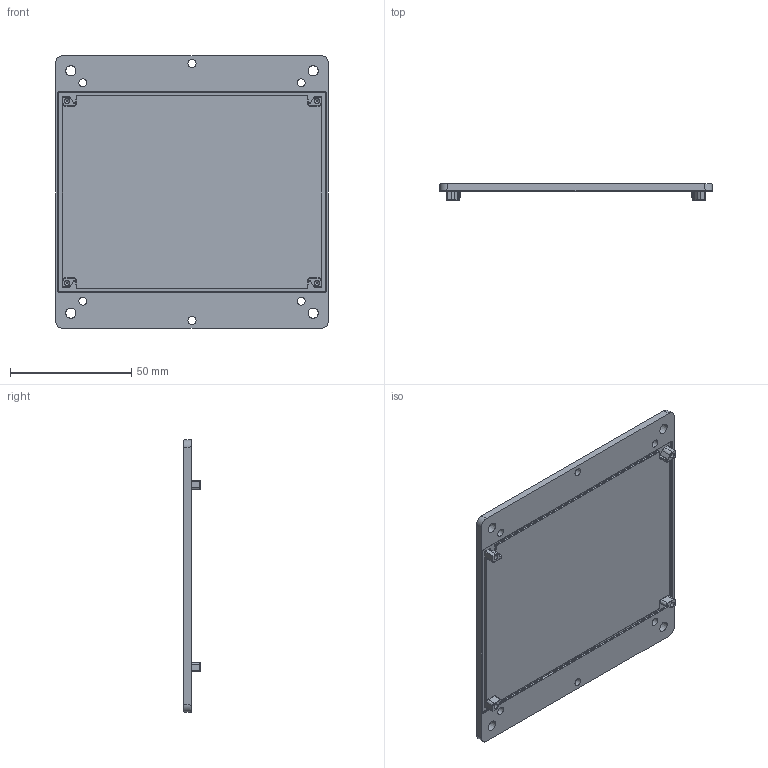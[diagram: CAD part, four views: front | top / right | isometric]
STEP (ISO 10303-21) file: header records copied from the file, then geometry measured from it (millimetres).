
FILE_DESCRIPTION (( 'STEP AP214' ), '1' );
FILE_NAME ('372D010350 SBC-IOT-IMX8 Heatplate .STEP', '2024-08-08T12:34:59', ( '' ), ( '' ), 'SwSTEP 2.0', 'SolidWorks 2015', '' );
FILE_SCHEMA (( 'AUTOMOTIVE_DESIGN' ));
Length unit declared in the file: millimetre
Products named in the file (1): 372D010350 SBC-IOT-IMX8 Heatplate 
Bounding box: 112.5 x 6.7 x 112.5 mm (x, y, z)
Volume: 37184.4 mm3; surface area: 27559.2 mm2
Topology: 1 solids, 1 shells, 274 faces, 642 edges, 360 vertices
Faces by surface type: cylinder 106, plane 52, torus 48, cone 32, bspline 24, sphere 12
Full cylindrical faces by diameter (mm): 1 x4, 2.05 x4, 3.3 x6
Entity records: 8167 total; most frequent: CARTESIAN_POINT 2136, DIRECTION 1334, ORIENTED_EDGE 1192, EDGE_CURVE 596, AXIS2_PLACEMENT_3D 547, VERTEX_POINT 352, EDGE_LOOP 322, CIRCLE 296
